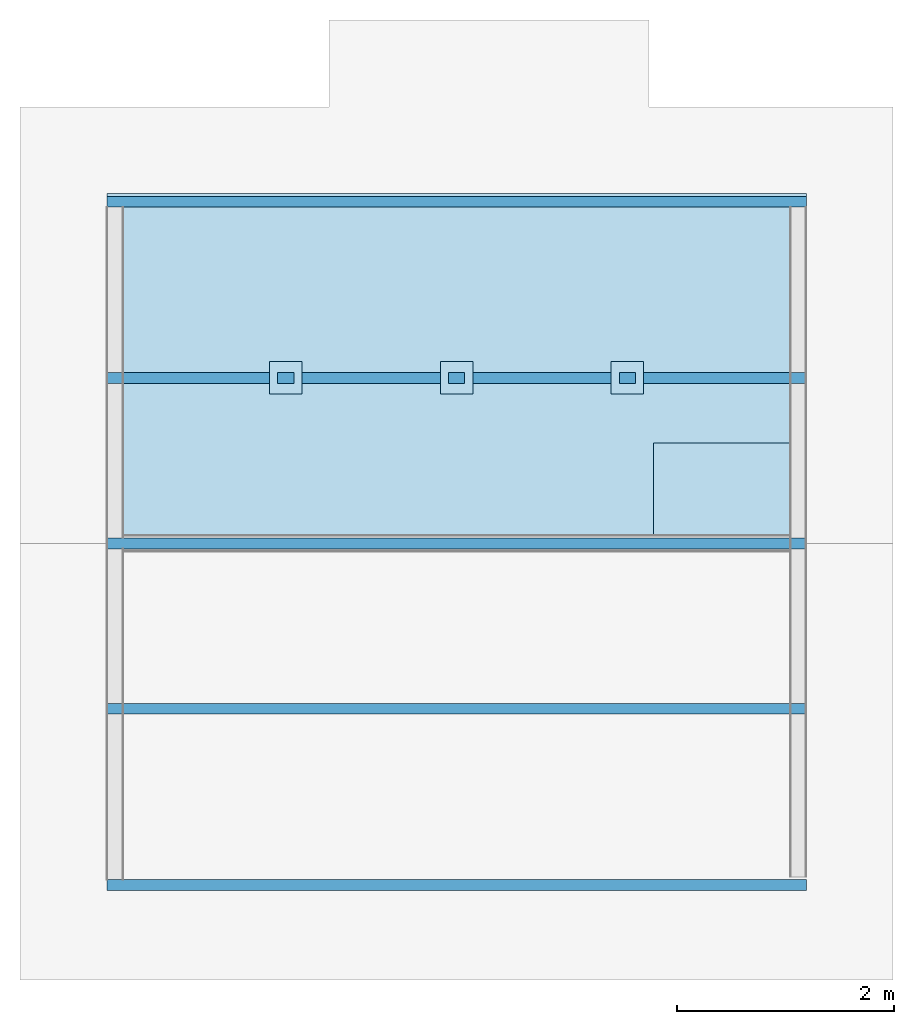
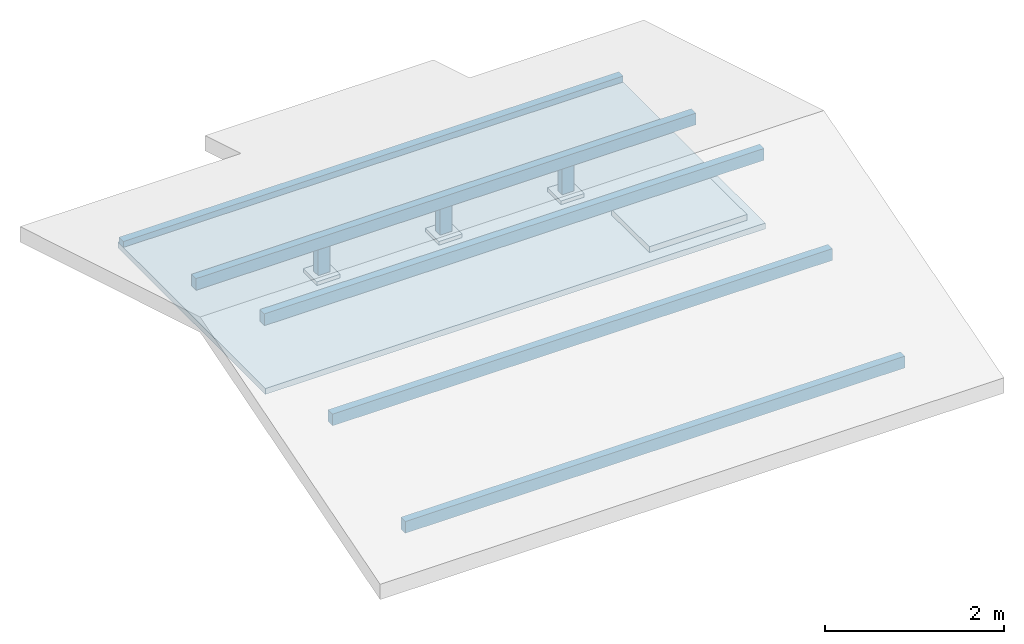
# One storey, part 1 of 4: 5 beams, 5 slabs, 3 columns.
"""IFC2X3 building model written with IfcOpenShell, lengths in millimetres."""

from ifc_helpers import new_model, entity, si_unit, converted_unit, derived_unit, money_unit, direction, frame, frame_2d, origin_with_axes, origin_2d_with_axis, place, context, subcontext, project, spatial, polyline, rectangle, outline, extrude, material, layer, layer_set, layer_usage, type_object, element, save


model = new_model("IFC2X3")

# Units and contexts
model_context = context("Model", 3, precision=0.01, world=origin_with_axes(), true_north=direction((0.0, 1.0)))
body_context = subcontext(model_context, "Body", "Model", "MODEL_VIEW")
ifc_project = project(units=[si_unit("LENGTHUNIT", "METRE", prefix="MILLI"), si_unit("AREAUNIT", "SQUARE_METRE"), si_unit("VOLUMEUNIT", "CUBIC_METRE"), converted_unit("PLANEANGLEUNIT", "DEGREE", entity("IfcPlaneAngleMeasure", 0.0174532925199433), si_unit("PLANEANGLEUNIT", "RADIAN"), dimensions=[0, 0, 0, 0, 0, 0, 0]), money_unit("USD"), converted_unit("TIMEUNIT", "Year", entity("IfcTimeMeasure", 31557600.0), si_unit("TIMEUNIT", "SECOND"), dimensions=[0, 0, 1, 0, 0, 0, 0]), si_unit("MASSUNIT", "GRAM", prefix="KILO"), si_unit("THERMODYNAMICTEMPERATUREUNIT", "DEGREE_CELSIUS"), si_unit("LUMINOUSINTENSITYUNIT", "LUMEN"), si_unit("ENERGYUNIT", "JOULE", prefix="MEGA"), derived_unit("THERMALCONDUCTANCEUNIT", [(si_unit("POWERUNIT", "WATT"), 1), (si_unit("LENGTHUNIT", "METRE"), -1), (si_unit("THERMODYNAMICTEMPERATUREUNIT", "KELVIN"), -1)]), derived_unit("SPECIFICHEATCAPACITYUNIT", [(si_unit("ENERGYUNIT", "JOULE"), 1), (si_unit("MASSUNIT", "GRAM", prefix="KILO"), -1), (si_unit("THERMODYNAMICTEMPERATUREUNIT", "KELVIN"), -1)]), derived_unit("MASSDENSITYUNIT", [(si_unit("MASSUNIT", "GRAM", prefix="KILO"), 1), (si_unit("VOLUMEUNIT", "CUBIC_METRE"), -1)])], contexts=[model_context])

# Site, building, storey
site_placement = place(None, origin_with_axes())
site = spatial("IfcSite", under=ifc_project, at=site_placement, Name="Local", CompositionType="ELEMENT")
building_placement = place(site_placement, origin_with_axes())
building = spatial("IfcBuilding", under=site, at=building_placement, Name="Construção", CompositionType="ELEMENT")
storey_placement = place(building_placement, frame((0.0, 0.0, 2500.0), z_axis=(0.0, 0.0, 1.0), x_axis=(1.0, 0.0, 0.0)))
storey = spatial("IfcBuildingStorey", under=building, at=storey_placement, Name="Cobertura", CompositionType="ELEMENT", Elevation=2500.0)

# Columns
ifc_material_1 = material(Name="Madeiramento - Cobertura")
column_type = type_object("IfcColumnType", Name="Madeiramento - Cobertura 150 x 100", PredefinedType="NOTDEFINED")
for number, where, z_axis, x_axis, name in (
    (1, (3225.000000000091, 4750.000000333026, 129.9999999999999), (0.0, 0.0, 1.0), (1.0, 0.0, 0.0), "PIL02"),
    (2, (1650.000000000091, 4750.000000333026, 129.9999999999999), (0.0, 0.0, 1.0), (1.0, 0.0, 0.0), "PIL03"),
    (3, (4800.000000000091, 4750.000000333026, 129.9999999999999), (0.0, 0.0, 1.0), (1.0, 0.0, 0.0), "PIL01"),
):
    element("IfcColumn", number, at=place(storey_placement, frame(where, z_axis=z_axis, x_axis=x_axis)), inside=storey, type_object=column_type, material=ifc_material_1, Name=name, context=body_context, shape_type="SweptSolid", body=[
        extrude(rectangle(XDim=150.0, YDim=100.0, at=origin_2d_with_axis()), origin_with_axes(), (0.0, 0.0, 1.0), 350.0000000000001),
    ])

# Beams
beam_type_1 = type_object("IfcBeamType", Name="Madeiramento - Cobertura 100 x 160", PredefinedType="NOTDEFINED")
for number, where, z_axis, x_axis, name in (
    (4, (0.0, 74.99999999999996, 160.0000000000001), (0.0, 0.0, 1.0), (0.0, -1.0, 0.0), "T01"),
    (5, (0.0, 3225.000000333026, 1082.951740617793), (0.0, 0.0, 1.0), (0.0, -1.0, 0.0), "T03"),
    (6, (0.0, 4750.000000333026, 640.4517407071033), (0.0, 0.0, 1.0), (0.0, -1.0, 0.0), "T04"),
    (7, (0.0, 1700.000000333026, 640.4517406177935), (0.0, 0.0, 1.0), (0.0, -1.0, 0.0), "T02"),
):
    element("IfcBeam", number, at=place(storey_placement, frame(where, z_axis=z_axis, x_axis=x_axis)), inside=storey, type_object=beam_type_1, material=ifc_material_1, Name=name, context=body_context, shape_type="SweptSolid", body=[
        extrude(rectangle(XDim=160.0, YDim=100.0, at=frame_2d((-80.0, 0.0), x_axis=(1.0, 0.0))), frame((0.0, 0.0, 0.0), z_axis=(0.0, 1.0, 0.0), x_axis=(0.0, 0.0, 1.0)), (0.0, 0.0, 1.0), 6449.999999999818),
    ])
beam_type_2 = type_object("IfcBeamType", Name="Madeiramento - Cobertura 100 x 80", PredefinedType="NOTDEFINED")
beam_placement = place(storey_placement, frame((0.0, 6375.000000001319, 160.0000000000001), z_axis=(0.0, 0.0, 1.0), x_axis=(0.0, -1.0, 0.0)))
element("IfcBeam", 8, at=beam_placement, inside=storey, type_object=beam_type_2, material=ifc_material_1, Name="T05", context=body_context, shape_type="SweptSolid", body=[
    extrude(rectangle(XDim=80.0, YDim=100.0, at=frame_2d((-40.0, 0.0), x_axis=(1.0, 0.0))), frame((0.0, 0.0, 0.0), z_axis=(0.0, 1.0, 0.0), x_axis=(0.0, 0.0, 1.0)), (0.0, 0.0, 1.0), 6449.999999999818),
])

# Slabs
ifc_material_2 = material(Name="Concreto Armado - Estrutural")
ifc_layer_1 = layer(ifc_material_2, 80.0, ventilated="UNKNOWN")
ifc_layer_set_1 = layer_set([ifc_layer_1], Name="Concreto Armado - Estrutural 80")
ifc_layer_usage_1 = layer_usage(ifc_layer_set_1, "AXIS3", "NEGATIVE", 80.0)
slab_type_1 = type_object("IfcSlabType", Name="Concreto Armado - Estrutural 80", PredefinedType="NOTDEFINED")
slab_1_placement = place(storey_placement, frame((0.0, 3149.999999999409, 0.0), z_axis=(0.0, 0.0, 1.0), x_axis=(1.0, 0.0, 0.0)))
element("IfcSlab", 9, at=slab_1_placement, inside=storey, type_object=slab_type_1, material=ifc_layer_usage_1, Name="L02", PredefinedType="NOTDEFINED", context=body_context, shape_type="SweptSolid", body=[
    extrude(outline(polyline([(0.0, 0.0), (6449.999999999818, 0.0), (6449.999999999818, 3300.000000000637), (0.0, 3300.000000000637), (0.0, 0.0)])), origin_with_axes(), (0.0, 0.0, 1.0), 80.0),
])
ifc_material_3 = material(Name="Concreto")
ifc_layer_2 = layer(ifc_material_3, 80.0, ventilated="UNKNOWN")
ifc_layer_set_2 = layer_set([ifc_layer_2], Name="Concreto 80")
ifc_layer_usage_2 = layer_usage(ifc_layer_set_2, "AXIS3", "NEGATIVE", 80.0)
slab_type_2 = type_object("IfcSlabType", Name="Concreto 80", PredefinedType="FLOOR")
slab_2_placement = place(storey_placement, frame((6299.999999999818, 3300.00000000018, 80.00000000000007), z_axis=(0.0, 0.0, 1.0), x_axis=(1.0, 0.0, 0.0)))
element("IfcSlab", 10, at=slab_2_placement, inside=storey, type_object=slab_type_2, material=ifc_layer_usage_2, Name="CP01", PredefinedType="FLOOR", context=body_context, shape_type="SweptSolid", body=[
    extrude(outline(polyline([(0.0, 0.0), (0.0, 849.9999999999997), (-1260.0, 849.9999999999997), (-1260.0, 0.0), (0.0, 0.0)])), origin_with_axes(), (0.0, 0.0, 1.0), 80.0),
])
ifc_layer_3 = layer(ifc_material_1, 50.0, ventilated="UNKNOWN")
ifc_layer_set_3 = layer_set([ifc_layer_3], Name="Madeiramento - Cobertura 50")
ifc_layer_usage_3 = layer_usage(ifc_layer_set_3, "AXIS3", "NEGATIVE", 50.0)
slab_type_3 = type_object("IfcSlabType", Name="Madeiramento - Cobertura 50", PredefinedType="NOTDEFINED")
slab_3_placement = place(storey_placement, frame((3375.00000000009, 4900.000000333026, 79.9999999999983), z_axis=(0.0, 0.0, 1.0), x_axis=(1.0, 0.0, 0.0)))
element("IfcSlab", 11, at=slab_3_placement, inside=storey, type_object=slab_type_3, material=ifc_layer_usage_3, Name="PL02", PredefinedType="NOTDEFINED", context=body_context, shape_type="SweptSolid", body=[
    extrude(outline(polyline([(0.0, 0.0), (-299.9999999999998, 0.0), (-299.9999999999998, -299.9999999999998), (0.0, -299.9999999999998), (0.0, 0.0)])), origin_with_axes(), (0.0, 0.0, 1.0), 50.0),
])
ifc_layer_usage_4 = layer_usage(ifc_layer_set_3, "AXIS3", "NEGATIVE", 50.0)
slab_4_placement = place(storey_placement, frame((4950.000000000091, 4900.000000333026, 79.9999999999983), z_axis=(0.0, 0.0, 1.0), x_axis=(1.0, 0.0, 0.0)))
element("IfcSlab", 12, at=slab_4_placement, inside=storey, type_object=slab_type_3, material=ifc_layer_usage_4, Name="PL01", PredefinedType="NOTDEFINED", context=body_context, shape_type="SweptSolid", body=[
    extrude(outline(polyline([(0.0, 0.0), (-299.9999999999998, 0.0), (-299.9999999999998, -299.9999999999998), (0.0, -299.9999999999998), (0.0, 0.0)])), origin_with_axes(), (0.0, 0.0, 1.0), 50.0),
])
ifc_layer_usage_5 = layer_usage(ifc_layer_set_3, "AXIS3", "NEGATIVE", 50.0)
slab_5_placement = place(storey_placement, frame((1800.000000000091, 4900.000000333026, 79.9999999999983), z_axis=(0.0, 0.0, 1.0), x_axis=(1.0, 0.0, 0.0)))
element("IfcSlab", 13, at=slab_5_placement, inside=storey, type_object=slab_type_3, material=ifc_layer_usage_5, Name="PL03", PredefinedType="NOTDEFINED", context=body_context, shape_type="SweptSolid", body=[
    extrude(outline(polyline([(0.0, 0.0), (-299.9999999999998, 0.0), (-299.9999999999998, -299.9999999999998), (0.0, -299.9999999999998), (0.0, 0.0)])), origin_with_axes(), (0.0, 0.0, 1.0), 50.0),
])

save(model, "model.ifc")
